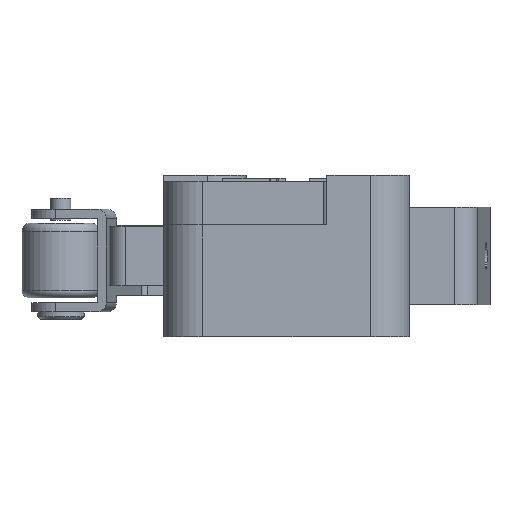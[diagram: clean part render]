
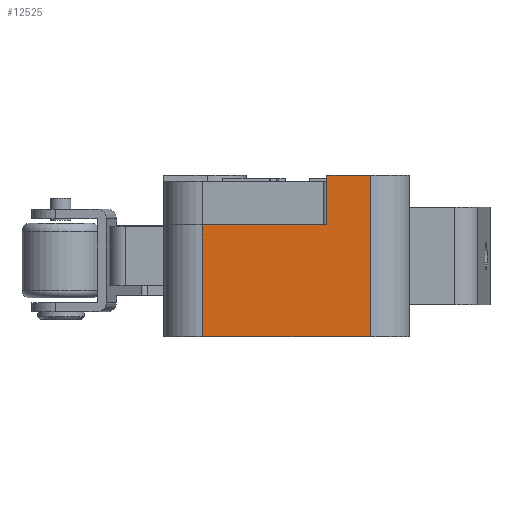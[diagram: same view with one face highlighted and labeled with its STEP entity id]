
A CAD part, left-side view. The second image highlights one B-rep face of the part: STEP entity #12525.
In plain terms, the highlighted planar face has unit normal (-1, 0, 0).
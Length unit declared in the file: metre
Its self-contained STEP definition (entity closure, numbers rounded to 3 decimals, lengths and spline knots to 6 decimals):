
#12384=CARTESIAN_POINT('',(-0.027238,-0.017123,0.033313));
#12385=VERTEX_POINT('',#12384);
#12419=CARTESIAN_POINT('',(-0.027238,-0.014323,0.033313));
#12420=VERTEX_POINT('',#12419);
#12423=CARTESIAN_POINT('',(-0.027238,-0.014323,0.033313));
#12424=DIRECTION('',(0.,-1.,0.));
#12425=VECTOR('',#12424,1.);
#12426=LINE('',#12423,#12425);
#12427=EDGE_CURVE('',#12420,#12385,#12426,.T.);
#12456=CARTESIAN_POINT('',(-0.027238,-0.017123,0.022913));
#12457=VERTEX_POINT('',#12456);
#12469=CARTESIAN_POINT('',(-0.027238,-0.017123,0.033313));
#12470=DIRECTION('',(0.,0.,-1.));
#12471=VECTOR('',#12470,1.);
#12472=LINE('',#12469,#12471);
#12473=EDGE_CURVE('',#12385,#12457,#12472,.T.);
#12486=CARTESIAN_POINT('',(-0.027238,-0.014323,0.033313));
#12487=DIRECTION('',(1.,0.,0.));
#12488=DIRECTION('',(0.,1.,0.));
#12489=AXIS2_PLACEMENT_3D('',#12486,#12487,#12488);
#12490=PLANE('',#12489);
#12491=CARTESIAN_POINT('',(-0.027238,-0.014323,0.022913));
#12492=DIRECTION('',(0.,-1.,0.));
#12493=VECTOR('',#12492,1.);
#12494=LINE('',#12491,#12493);
#12495=CARTESIAN_POINT('',(-0.027238,-0.006323,0.022913));
#12496=VERTEX_POINT('',#12495);
#12497=EDGE_CURVE('',#12496,#12457,#12494,.T.);
#12498=ORIENTED_EDGE('',*,*,#12497,.T.);
#12499=ORIENTED_EDGE('',*,*,#12473,.F.);
#12500=ORIENTED_EDGE('',*,*,#12427,.F.);
#12501=CARTESIAN_POINT('',(-0.027238,-0.014323,0.033313));
#12502=DIRECTION('',(0.,0.,-1.));
#12503=VECTOR('',#12502,1.);
#12504=LINE('',#12501,#12503);
#12505=CARTESIAN_POINT('',(-0.027238,-0.014323,0.030113));
#12506=VERTEX_POINT('',#12505);
#12507=EDGE_CURVE('',#12420,#12506,#12504,.T.);
#12508=ORIENTED_EDGE('',*,*,#12507,.T.);
#12509=CARTESIAN_POINT('',(-0.027238,-0.011723,0.030113));
#12510=DIRECTION('',(0.,-1.,0.));
#12511=VECTOR('',#12510,1.);
#12512=LINE('',#12509,#12511);
#12513=CARTESIAN_POINT('',(-0.027238,-0.006323,0.030113));
#12514=VERTEX_POINT('',#12513);
#12515=EDGE_CURVE('',#12514,#12506,#12512,.T.);
#12516=ORIENTED_EDGE('',*,*,#12515,.F.);
#12517=CARTESIAN_POINT('',(-0.027238,-0.006323,0.030113));
#12518=DIRECTION('',(0.,0.,-1.));
#12519=VECTOR('',#12518,1.);
#12520=LINE('',#12517,#12519);
#12521=EDGE_CURVE('',#12514,#12496,#12520,.T.);
#12522=ORIENTED_EDGE('',*,*,#12521,.T.);
#12523=EDGE_LOOP('',(#12498,#12499,#12500,#12508,#12516,#12522));
#12524=FACE_BOUND('',#12523,.T.);
#12525=ADVANCED_FACE('',(#12524),#12490,.F.);
